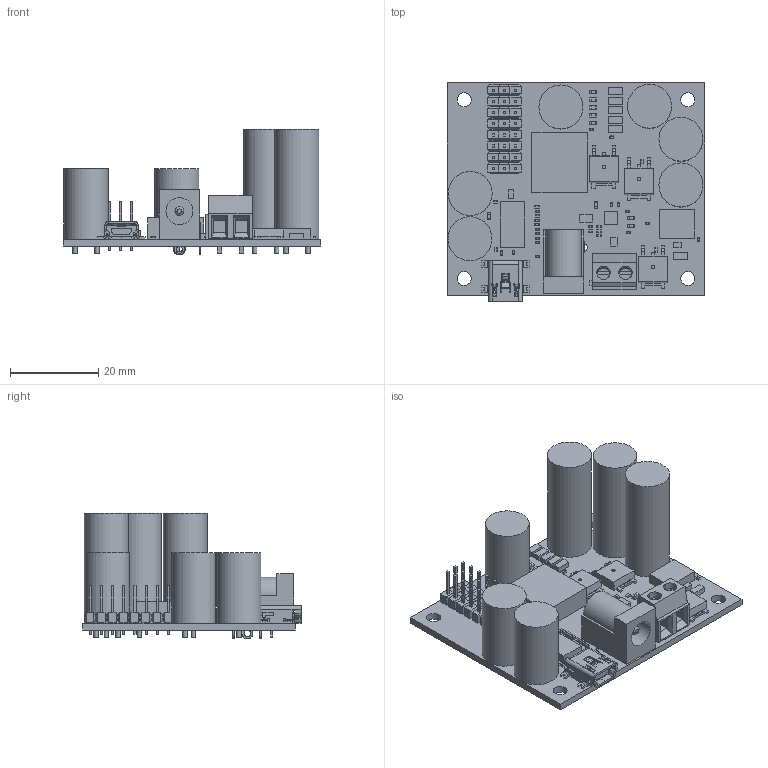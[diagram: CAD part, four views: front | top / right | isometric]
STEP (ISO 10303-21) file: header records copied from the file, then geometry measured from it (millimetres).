
FILE_DESCRIPTION(('Open CASCADE Model'),'2;1');
FILE_NAME('Open CASCADE Shape Model','2019-07-08T14:44:18',('Author'),( 'Open CASCADE'),'Open CASCADE STEP processor 6.8','Open CASCADE 6.8' ,'Unknown');
FILE_SCHEMA(('AUTOMOTIVE_DESIGN { 1 0 10303 214 1 1 1 1 }'));
Length unit declared in the file: millimetre
Products named in the file (119): PCB; Board; R6; 5202986752; Extruded; 5202986560; D2; 5202986368; U4; 5202986176; R15; 5202985984; 5202985792; R14; R13; R12; R10; R9; R5; R4; R3; R2; Q1; 5202985600; D1; 5202985408; C31; C24; C14; C13; C10; 5202985216; C2; U7; User_Library-TO252AA; U5; U3; R8; R1; L1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
Assembly tree (221 placements, depth 4):
  PCB
    Board
    R6
      5202986752
        Extruded
      5202986560
        Extruded
    D2
      5202986368
        Extruded
    U4
      5202986176
        Extruded
    R15
      5202985984
        Extruded
      5202985792
        Extruded
    R14
      5202985984
        Extruded
      5202985792
        Extruded
    R13
      5202985984
        Extruded
      5202985792
        Extruded
    R12
      5202985984
        Extruded
      5202985792
        Extruded
    R10
      5202985984
        Extruded
      5202985792
        Extruded
    R9
      5202986752
        Extruded
      5202986560
        Extruded
    R5
      5202986752
        Extruded
      5202986560
        Extruded
    R4
      5202985984
        Extruded
      5202985792
        Extruded
    R3
      5202986752
        Extruded
      5202986560
        Extruded
    R2
      5202985984
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Bounding box: 58.42 x 49.58 x 28.6 mm (x, y, z)
Volume: 17672.1 mm3; surface area: 16698.9 mm2
Topology: 131 solids, 131 shells, 2034 faces, 4639 edges, 2952 vertices
Faces by surface type: plane 1761, cylinder 229, bspline 36, torus 4, cone 2, sphere 2
Full cylindrical faces by diameter (mm): 0.381 x1, 1 x14, 1.067 x36, 1.6 x5, 3.175 x4, 10 x6
Entity records: 28688 total; most frequent: CARTESIAN_POINT 5187, DIRECTION 4300, ORIENTED_EDGE 4052, EDGE_CURVE 2026, LINE 1494, VECTOR 1494, AXIS2_PLACEMENT_3D 1403, VERTEX_POINT 1270
